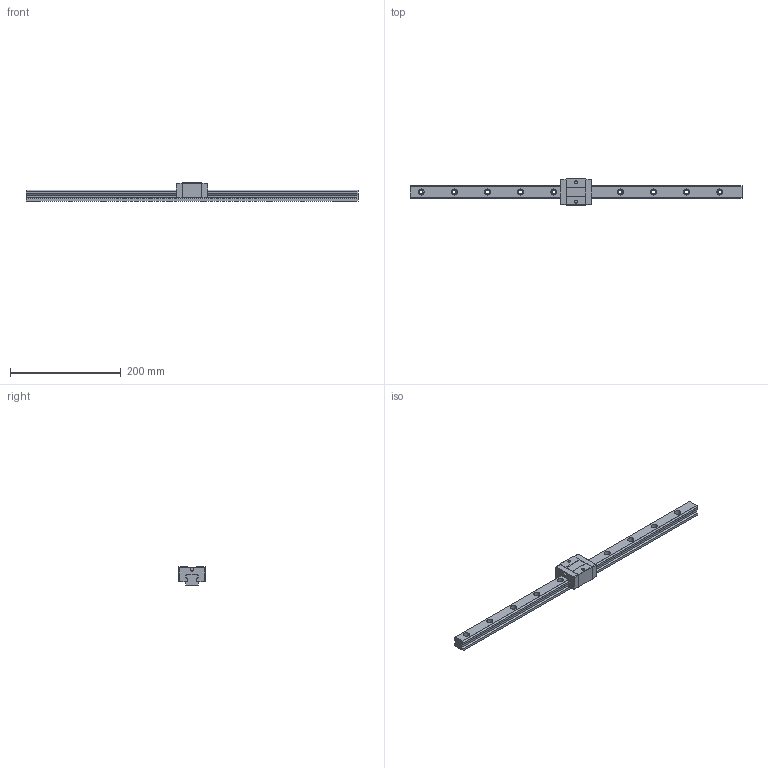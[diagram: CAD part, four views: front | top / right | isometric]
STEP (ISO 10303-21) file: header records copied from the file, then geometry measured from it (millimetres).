
FILE_DESCRIPTION (( 'STEP AP203' ), '1' );
FILE_NAME ('TRS25VS-XNC.STEP', '2024-08-16T07:21:44', ( '' ), ( '' ), 'SwSTEP 2.0', 'SolidWorks 2021', '' );
FILE_SCHEMA (( 'CONFIG_CONTROL_DESIGN' ));
Length unit declared in the file: millimetre
Products named in the file (1): TRS25VS-XNC
Bounding box: 600 x 48 x 33 mm (x, y, z)
Volume: 289269 mm3; surface area: 71350.6 mm2
Topology: 1 solids, 1 shells, 168 faces, 460 edges, 306 vertices
Faces by surface type: cylinder 84, plane 84
Entity records: 5499 total; most frequent: DIRECTION 968, CARTESIAN_POINT 935, ORIENTED_EDGE 920, EDGE_CURVE 460, AXIS2_PLACEMENT_3D 339, VERTEX_POINT 306, LINE 290, VECTOR 290
